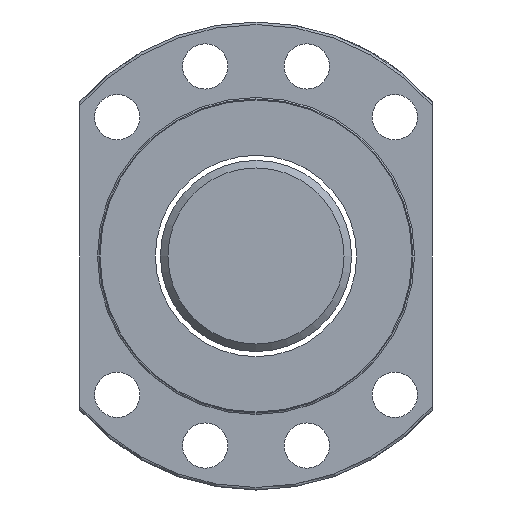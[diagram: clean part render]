
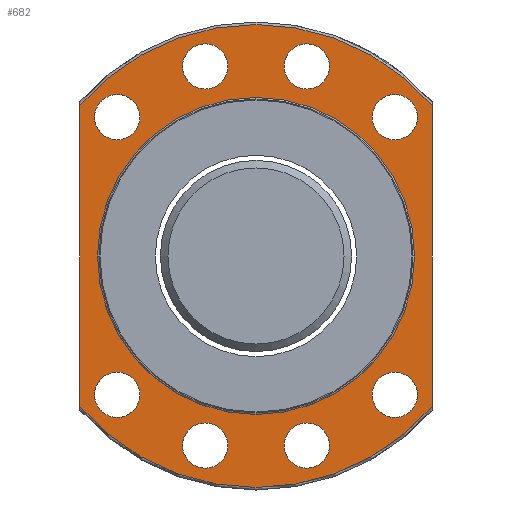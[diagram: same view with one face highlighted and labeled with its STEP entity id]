
A CAD part, left-side view. The second image highlights one B-rep face of the part: STEP entity #682.
In plain terms, the highlighted planar face has unit normal (-1, 0, 0).
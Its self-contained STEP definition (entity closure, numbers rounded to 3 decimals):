
#81=LINE('',#1162,#89);
#82=LINE('',#1192,#90);
#89=VECTOR('',#930,1000.);
#90=VECTOR('',#933,1000.);
#123=PLANE('',#796);
#219=ORIENTED_EDGE('',*,*,#339,.F.);
#220=ORIENTED_EDGE('',*,*,#320,.T.);
#221=ORIENTED_EDGE('',*,*,#340,.F.);
#222=ORIENTED_EDGE('',*,*,#326,.F.);
#223=ORIENTED_EDGE('',*,*,#329,.T.);
#224=ORIENTED_EDGE('',*,*,#330,.T.);
#225=ORIENTED_EDGE('',*,*,#331,.T.);
#226=ORIENTED_EDGE('',*,*,#332,.T.);
#227=ORIENTED_EDGE('',*,*,#333,.T.);
#228=ORIENTED_EDGE('',*,*,#334,.T.);
#229=ORIENTED_EDGE('',*,*,#335,.T.);
#230=ORIENTED_EDGE('',*,*,#336,.T.);
#231=ORIENTED_EDGE('',*,*,#338,.T.);
#320=EDGE_CURVE('',#395,#394,#81,.T.);
#326=EDGE_CURVE('',#397,#398,#82,.T.);
#329=EDGE_CURVE('',#400,#400,#445,.T.);
#330=EDGE_CURVE('',#401,#401,#446,.T.);
#331=EDGE_CURVE('',#402,#402,#447,.T.);
#332=EDGE_CURVE('',#403,#403,#448,.T.);
#333=EDGE_CURVE('',#404,#404,#449,.T.);
#334=EDGE_CURVE('',#405,#405,#450,.T.);
#335=EDGE_CURVE('',#406,#406,#451,.T.);
#336=EDGE_CURVE('',#407,#407,#452,.T.);
#338=EDGE_CURVE('',#409,#409,#454,.T.);
#339=EDGE_CURVE('',#395,#397,#455,.T.);
#340=EDGE_CURVE('',#398,#394,#456,.T.);
#394=VERTEX_POINT('',#1161);
#395=VERTEX_POINT('',#1163);
#397=VERTEX_POINT('',#1191);
#398=VERTEX_POINT('',#1193);
#400=VERTEX_POINT('',#1203);
#401=VERTEX_POINT('',#1206);
#402=VERTEX_POINT('',#1209);
#403=VERTEX_POINT('',#1212);
#404=VERTEX_POINT('',#1215);
#405=VERTEX_POINT('',#1218);
#406=VERTEX_POINT('',#1221);
#407=VERTEX_POINT('',#1224);
#409=VERTEX_POINT('',#1230);
#445=CIRCLE('',#777,4.5);
#446=CIRCLE('',#779,4.5);
#447=CIRCLE('',#781,4.5);
#448=CIRCLE('',#783,4.5);
#449=CIRCLE('',#785,4.5);
#450=CIRCLE('',#787,4.5);
#451=CIRCLE('',#789,4.5);
#452=CIRCLE('',#791,4.5);
#454=CIRCLE('',#795,31.5);
#455=CIRCLE('',#797,46.);
#456=CIRCLE('',#798,46.);
#530=EDGE_LOOP('',(#219,#220,#221,#222));
#531=EDGE_LOOP('',(#223));
#532=EDGE_LOOP('',(#224));
#533=EDGE_LOOP('',(#225));
#534=EDGE_LOOP('',(#226));
#535=EDGE_LOOP('',(#227));
#536=EDGE_LOOP('',(#228));
#537=EDGE_LOOP('',(#229));
#538=EDGE_LOOP('',(#230));
#539=EDGE_LOOP('',(#231));
#623=FACE_BOUND('',#530,.T.);
#624=FACE_BOUND('',#531,.T.);
#625=FACE_BOUND('',#532,.T.);
#626=FACE_BOUND('',#533,.T.);
#627=FACE_BOUND('',#534,.T.);
#628=FACE_BOUND('',#535,.T.);
#629=FACE_BOUND('',#536,.T.);
#630=FACE_BOUND('',#537,.T.);
#631=FACE_BOUND('',#538,.T.);
#632=FACE_BOUND('',#539,.T.);
#682=ADVANCED_FACE('',(#623,#624,#625,#626,#627,#628,#629,#630,#631,#632),
#123,.F.);
#777=AXIS2_PLACEMENT_3D('',#1202,#937,#938);
#779=AXIS2_PLACEMENT_3D('',#1205,#941,#942);
#781=AXIS2_PLACEMENT_3D('',#1208,#945,#946);
#783=AXIS2_PLACEMENT_3D('',#1211,#949,#950);
#785=AXIS2_PLACEMENT_3D('',#1214,#953,#954);
#787=AXIS2_PLACEMENT_3D('',#1217,#957,#958);
#789=AXIS2_PLACEMENT_3D('',#1220,#961,#962);
#791=AXIS2_PLACEMENT_3D('',#1223,#965,#966);
#795=AXIS2_PLACEMENT_3D('',#1229,#973,#974);
#796=AXIS2_PLACEMENT_3D('',#1231,#975,#976);
#797=AXIS2_PLACEMENT_3D('',#1232,#977,#978);
#798=AXIS2_PLACEMENT_3D('',#1233,#979,#980);
#930=DIRECTION('',(0.,0.,-1.));
#933=DIRECTION('',(0.,0.,-1.));
#937=DIRECTION('',(1.,0.,0.));
#938=DIRECTION('',(0.,1.,0.));
#941=DIRECTION('',(1.,0.,0.));
#942=DIRECTION('',(0.,1.,0.));
#945=DIRECTION('',(1.,0.,0.));
#946=DIRECTION('',(0.,1.,0.));
#949=DIRECTION('',(1.,0.,0.));
#950=DIRECTION('',(0.,1.,0.));
#953=DIRECTION('',(1.,0.,0.));
#954=DIRECTION('',(0.,1.,0.));
#957=DIRECTION('',(1.,0.,0.));
#958=DIRECTION('',(0.,1.,0.));
#961=DIRECTION('',(1.,0.,0.));
#962=DIRECTION('',(0.,1.,0.));
#965=DIRECTION('',(1.,0.,0.));
#966=DIRECTION('',(0.,1.,0.));
#973=DIRECTION('',(1.,0.,0.));
#974=DIRECTION('',(0.,1.,0.));
#975=DIRECTION('',(1.,0.,0.));
#976=DIRECTION('',(0.,1.,0.));
#977=DIRECTION('',(1.,0.,0.));
#978=DIRECTION('',(0.,1.,0.));
#979=DIRECTION('',(1.,0.,0.));
#980=DIRECTION('',(0.,1.,0.));
#1161=CARTESIAN_POINT('',(-29.,35.,-29.85));
#1162=CARTESIAN_POINT('',(-29.,35.,0.));
#1163=CARTESIAN_POINT('',(-29.,35.,29.85));
#1191=CARTESIAN_POINT('',(-29.,-35.,29.85));
#1192=CARTESIAN_POINT('',(-29.,-35.,0.));
#1193=CARTESIAN_POINT('',(-29.,-35.,-29.85));
#1202=CARTESIAN_POINT('',(-29.,27.577,-27.577));
#1203=CARTESIAN_POINT('',(-29.,32.077,-27.577));
#1205=CARTESIAN_POINT('',(-29.,27.577,27.577));
#1206=CARTESIAN_POINT('',(-29.,32.077,27.577));
#1208=CARTESIAN_POINT('',(-29.,-27.577,27.577));
#1209=CARTESIAN_POINT('',(-29.,-23.077,27.577));
#1211=CARTESIAN_POINT('',(-29.,-27.577,-27.577));
#1212=CARTESIAN_POINT('',(-29.,-23.077,-27.577));
#1214=CARTESIAN_POINT('',(-29.,10.094,-37.671));
#1215=CARTESIAN_POINT('',(-29.,14.594,-37.671));
#1217=CARTESIAN_POINT('',(-29.,-10.094,-37.671));
#1218=CARTESIAN_POINT('',(-29.,-5.594,-37.671));
#1220=CARTESIAN_POINT('',(-29.,-10.094,37.671));
#1221=CARTESIAN_POINT('',(-29.,-5.594,37.671));
#1223=CARTESIAN_POINT('',(-29.,10.094,37.671));
#1224=CARTESIAN_POINT('',(-29.,14.594,37.671));
#1229=CARTESIAN_POINT('',(-29.,0.,0.));
#1230=CARTESIAN_POINT('',(-29.,31.5,0.));
#1231=CARTESIAN_POINT('',(-29.,38.75,0.));
#1232=CARTESIAN_POINT('',(-29.,0.,0.));
#1233=CARTESIAN_POINT('',(-29.,0.,0.));
